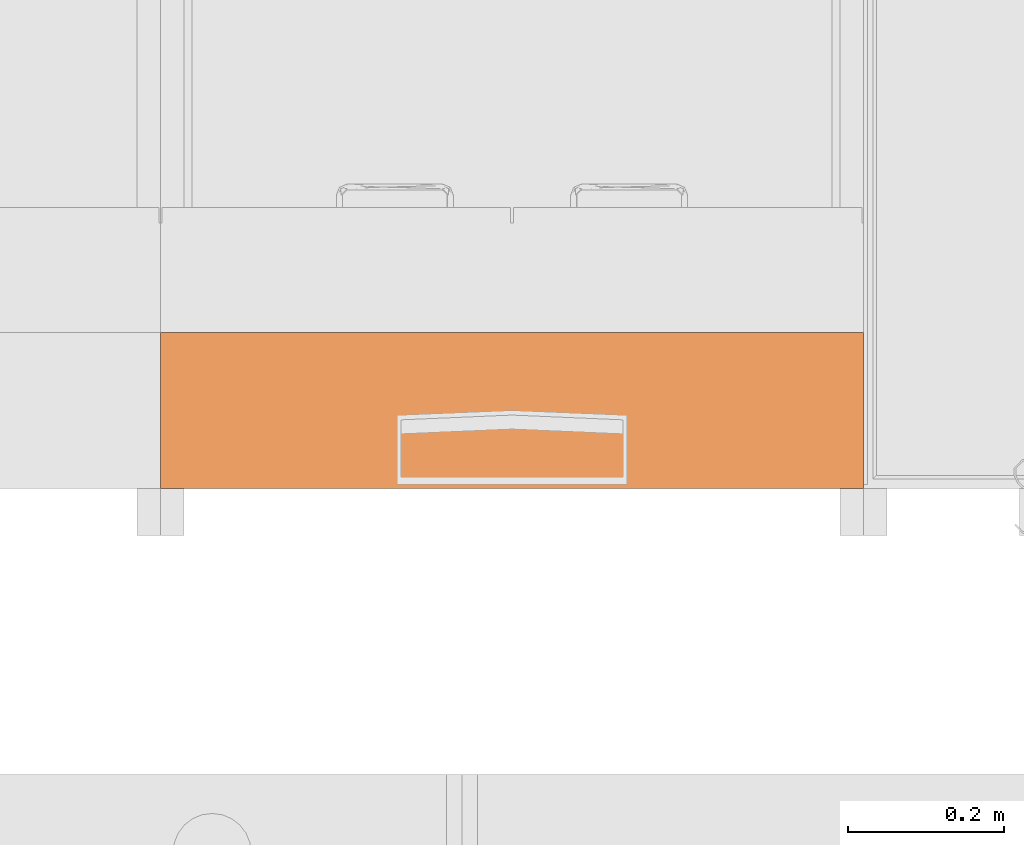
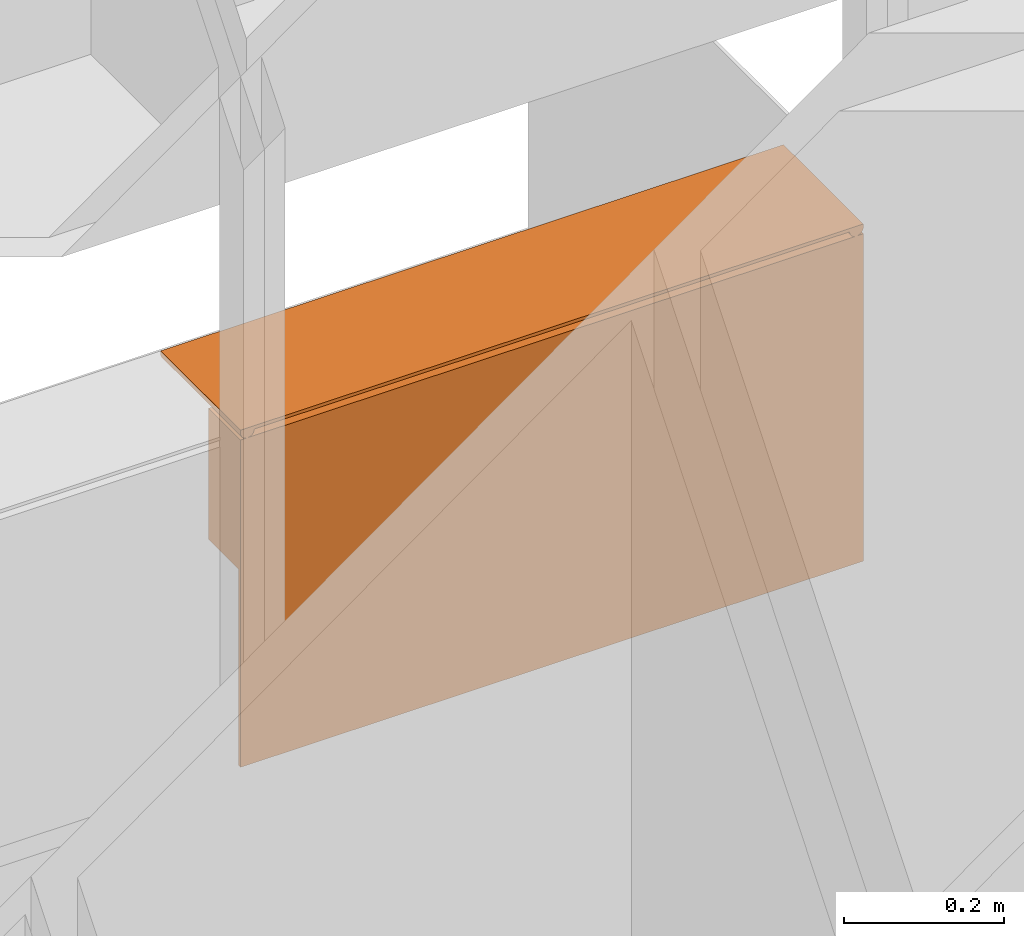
# One storey, part 7 of 32: 1 proxy.
"""IFC2X3 building model written with IfcOpenShell, lengths in metres."""

from ifc_helpers import new_model, entity, si_unit, converted_unit, derived_unit, direction, frame, frame_2d, origin, origin_2d_with_axis, place, context, subcontext, project, spatial, polyline, circle_curve, parameter, trimmed, segment, composite_curve, rectangle, outline, extrude, source, transform, mapped, material, material_list, type_object, type_shapes, element, save


model = new_model("IFC2X3")

# Units and contexts
model_context = context("Model", 3, precision=1e-05, world=origin(), true_north=direction((6.12303176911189e-17, 1.0)))
body_context = subcontext(model_context, "Body", "Model", "MODEL_VIEW")
ifc_project = project(units=[si_unit("LENGTHUNIT", "METRE"), si_unit("AREAUNIT", "SQUARE_METRE"), si_unit("VOLUMEUNIT", "CUBIC_METRE"), converted_unit("PLANEANGLEUNIT", "DEGREE", entity("IfcRatioMeasure", 0.0174532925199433), si_unit("PLANEANGLEUNIT", "RADIAN"), dimensions=[0, 0, 0, 0, 0, 0, 0]), si_unit("MASSUNIT", "GRAM", prefix="KILO"), derived_unit("MASSDENSITYUNIT", [(si_unit("MASSUNIT", "GRAM", prefix="KILO"), 1), (si_unit("LENGTHUNIT", "METRE"), -3)]), derived_unit("MOMENTOFINERTIAUNIT", [(si_unit("LENGTHUNIT", "METRE"), 4)]), si_unit("TIMEUNIT", "SECOND"), si_unit("FREQUENCYUNIT", "HERTZ"), si_unit("THERMODYNAMICTEMPERATUREUNIT", "DEGREE_CELSIUS"), derived_unit("THERMALTRANSMITTANCEUNIT", [(si_unit("MASSUNIT", "GRAM", prefix="KILO"), 1), (si_unit("THERMODYNAMICTEMPERATUREUNIT", "KELVIN"), -1), (si_unit("TIMEUNIT", "SECOND"), -3)]), derived_unit("VOLUMETRICFLOWRATEUNIT", [(si_unit("LENGTHUNIT", "METRE"), 3), (si_unit("TIMEUNIT", "SECOND"), -1)]), si_unit("ELECTRICCURRENTUNIT", "AMPERE"), si_unit("ELECTRICVOLTAGEUNIT", "VOLT"), si_unit("POWERUNIT", "WATT"), si_unit("FORCEUNIT", "NEWTON", prefix="KILO"), si_unit("ILLUMINANCEUNIT", "LUX"), si_unit("LUMINOUSFLUXUNIT", "LUMEN"), si_unit("LUMINOUSINTENSITYUNIT", "CANDELA"), derived_unit("USERDEFINED", [(si_unit("MASSUNIT", "GRAM", prefix="KILO"), -1), (si_unit("LENGTHUNIT", "METRE"), -2), (si_unit("TIMEUNIT", "SECOND"), 3), (si_unit("LUMINOUSFLUXUNIT", "LUMEN"), 1)]), derived_unit("LINEARVELOCITYUNIT", [(si_unit("LENGTHUNIT", "METRE"), 1), (si_unit("TIMEUNIT", "SECOND"), -1)]), si_unit("PRESSUREUNIT", "PASCAL"), derived_unit("USERDEFINED", [(si_unit("LENGTHUNIT", "METRE"), -2), (si_unit("MASSUNIT", "GRAM", prefix="KILO"), 1), (si_unit("TIMEUNIT", "SECOND"), -2)]), derived_unit("LINEARFORCEUNIT", [(si_unit("MASSUNIT", "GRAM", prefix="KILO"), 1), (si_unit("LENGTHUNIT", "METRE"), 1), (si_unit("TIMEUNIT", "SECOND"), -2), (si_unit("LENGTHUNIT", "METRE"), -1)]), derived_unit("PLANARFORCEUNIT", [(si_unit("MASSUNIT", "GRAM", prefix="KILO"), 1), (si_unit("LENGTHUNIT", "METRE"), 1), (si_unit("TIMEUNIT", "SECOND"), -2), (si_unit("LENGTHUNIT", "METRE"), -2)])], contexts=[model_context])

# Site, building, storey
site_placement = place(None, origin())
site = spatial("IfcSite", under=ifc_project, at=site_placement, Name="Default", CompositionType="ELEMENT")
building_placement = place(site_placement, origin())
building = spatial("IfcBuilding", under=site, at=building_placement, CompositionType="ELEMENT")
storey_placement = place(building_placement, origin())
storey = spatial("IfcBuildingStorey", under=building, at=storey_placement, Name="00 EG", CompositionType="ELEMENT", Elevation=0.0)

# Proxy
ifc_material_1 = material(Name="dh_Weiß")
ifc_material_2 = material(Name="dh_Glas WHS")
ifc_material_3 = material(Name="dh_Blau")
ifc_material_list_1 = material_list([ifc_material_1, ifc_material_2, ifc_material_3])
ifc_material_list_2 = material_list([ifc_material_1, ifc_material_2, ifc_material_3])
building_element_proxy_type = type_object("IfcBuildingElementProxyType", Name="dh_Medienwand WHA:90 Stehtisch", PredefinedType="NOTDEFINED", material=ifc_material_list_2)
shared_shape = source(origin(), body_context, "Body", "SweptSolid", [
    extrude(outline(composite_curve([segment(trimmed(circle_curve(frame_2d((0.0, 0.0), x_axis=(-1.0, 0.0)), 0.01), [parameter(0.0)], [parameter(180.0)], True, "PARAMETER"), True, "CONTINUOUS"), segment(polyline([(0.01, 0.0), (-0.01, 0.0)]), True, "CONTINUOUS")], self_intersect=False)), frame((-0.589999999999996, 0.1, 1.40999999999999), z_axis=(0.0, -1.0, 0.0), x_axis=(1.0, 0.0, 0.0)), (0.0, 0.0, -1.0), 0.2),
    extrude(outline(composite_curve([segment(trimmed(circle_curve(origin_2d_with_axis(), 0.00999999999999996), [parameter(0.0)], [parameter(180.0)], True, "PARAMETER"), True, "CONTINUOUS"), segment(polyline([(-0.0099999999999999, 0.0), (0.0099999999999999, 0.0)]), True, "CONTINUOUS")], self_intersect=False)), frame((0.290000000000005, 0.1, 1.40999999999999), z_axis=(0.0, 1.0, 0.0), x_axis=(1.0, 0.0, 0.0)), (0.0, 0.0, 1.0), 0.2),
    extrude(rectangle(XDim=0.9, YDim=0.2, at=origin_2d_with_axis()), frame((-0.149999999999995, 0.2, 1.40999999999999), z_axis=(0.0, 0.0, 1.0), x_axis=(-1.0, 0.0, 0.0)), (0.0, 0.0, 1.0), 0.00499999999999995),
    extrude(rectangle(XDim=0.00500000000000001, YDim=0.9, at=frame_2d((-3.38271077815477e-17, -5.55111512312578e-17), x_axis=(1.0, 0.0))), frame((-0.15, 0.2975, 0.900000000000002), z_axis=(0.0, 0.0, 1.0), x_axis=(0.0, 1.0, 0.0)), (0.0, 0.0, 1.0), 0.299999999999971),
    extrude(rectangle(XDim=0.9, YDim=0.08, at=frame_2d((0.0, 3.46944695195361e-17), x_axis=(1.0, 0.0))), frame((-0.15, 0.26, 1.20000000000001), z_axis=(0.0, 0.0, 1.0), x_axis=(-1.0, 0.0, 0.0)), (0.0, 0.0, 1.0), 0.199999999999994),
])
type_shapes(building_element_proxy_type, [shared_shape])
proxy_placement = place(storey_placement, frame((14.6499999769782, 10.5099999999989, 0.0), z_axis=(0.0, 0.0, 1.0), x_axis=(-1.0, 0.0, 0.0)))
element("IfcBuildingElementProxy", 1, at=proxy_placement, inside=storey, type_object=building_element_proxy_type, material=ifc_material_list_1, Name="dh_Medienwand WHA:90 Stehtisch", ObjectType="dh_Medienwand WHA:90 Stehtisch", context=body_context, shape_type="MappedRepresentation", body=[
    mapped(shared_shape, transform((0.0, 0.0, 0.0), scale=1.0)),
])

save(model, "model.ifc")
